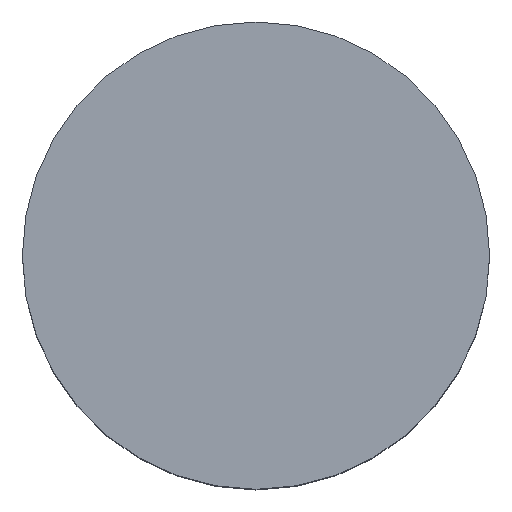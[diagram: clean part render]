
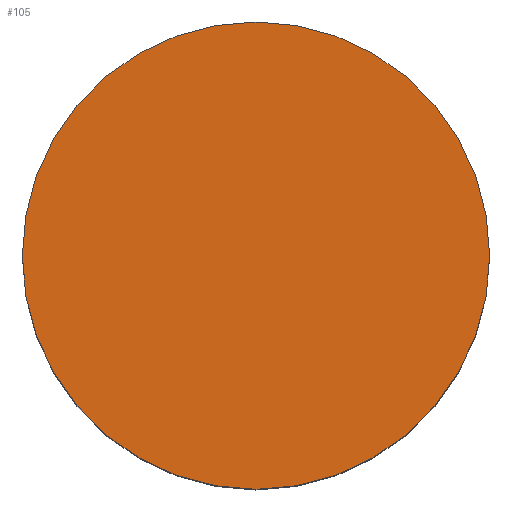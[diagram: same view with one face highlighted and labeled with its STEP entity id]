
A CAD part, top view. The second image highlights one B-rep face of the part: STEP entity #105.
In plain terms, the highlighted planar face has unit normal (0, 0, 1).
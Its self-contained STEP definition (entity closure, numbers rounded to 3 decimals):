
#21 = EDGE_CURVE('',#22,#22,#24,.T.);
#22 = VERTEX_POINT('',#23);
#23 = CARTESIAN_POINT('',(8.,4.,10.1));
#24 = SURFACE_CURVE('',#25,(#30,#42),.PCURVE_S1.);
#25 = CIRCLE('',#26,4.);
#26 = AXIS2_PLACEMENT_3D('',#27,#28,#29);
#27 = CARTESIAN_POINT('',(4.,4.,10.1));
#28 = DIRECTION('',(0.,0.,1.));
#29 = DIRECTION('',(1.,0.,-0.));
#30 = PCURVE('',#31,#36);
#31 = CYLINDRICAL_SURFACE('',#32,4.);
#32 = AXIS2_PLACEMENT_3D('',#33,#34,#35);
#33 = CARTESIAN_POINT('',(4.,4.,8.7));
#34 = DIRECTION('',(0.,0.,1.));
#35 = DIRECTION('',(1.,0.,-0.));
#36 = DEFINITIONAL_REPRESENTATION('',(#37),#41);
#37 = LINE('',#38,#39);
#38 = CARTESIAN_POINT('',(0.,1.4));
#39 = VECTOR('',#40,1.);
#40 = DIRECTION('',(1.,0.));
#41 = ( GEOMETRIC_REPRESENTATION_CONTEXT(2) 
PARAMETRIC_REPRESENTATION_CONTEXT() REPRESENTATION_CONTEXT('2D SPACE',''
  ) );
#42 = PCURVE('',#43,#48);
#43 = PLANE('',#44);
#44 = AXIS2_PLACEMENT_3D('',#45,#46,#47);
#45 = CARTESIAN_POINT('',(4.,4.,10.1));
#46 = DIRECTION('',(0.,0.,1.));
#47 = DIRECTION('',(1.,0.,-0.));
#48 = DEFINITIONAL_REPRESENTATION('',(#49),#53);
#49 = CIRCLE('',#50,4.);
#50 = AXIS2_PLACEMENT_2D('',#51,#52);
#51 = CARTESIAN_POINT('',(0.,0.));
#52 = DIRECTION('',(1.,0.));
#53 = ( GEOMETRIC_REPRESENTATION_CONTEXT(2) 
PARAMETRIC_REPRESENTATION_CONTEXT() REPRESENTATION_CONTEXT('2D SPACE',''
  ) );
#105 = ADVANCED_FACE('',(#106),#43,.T.);
#106 = FACE_BOUND('',#107,.T.);
#107 = EDGE_LOOP('',(#108));
#108 = ORIENTED_EDGE('',*,*,#21,.T.);
